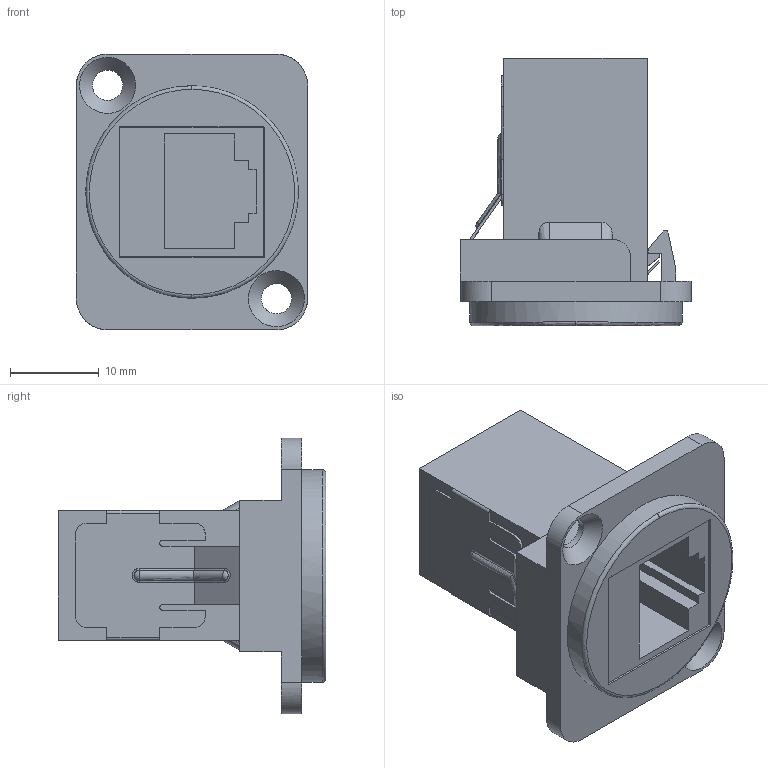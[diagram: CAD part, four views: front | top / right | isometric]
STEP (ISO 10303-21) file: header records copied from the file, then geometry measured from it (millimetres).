
FILE_DESCRIPTION(('FreeCAD Model'),'2;1');
FILE_NAME('Open CASCADE Shape Model','2026-05-18T11:31:28',(''),(''), 'Open CASCADE STEP processor 7.8','FreeCAD','Unknown');
FILE_SCHEMA(('AUTOMOTIVE_DESIGN { 1 0 10303 214 1 1 1 1 }'));
Length unit declared in the file: millimetre
Products named in the file (3): Unnamed; 3013BUSXLRBK; 3013AJSLQF6WH
Assembly tree (2 placements, depth 2):
  Unnamed
    3013BUSXLRBK
    3013AJSLQF6WH
Bounding box: 26 x 30.1 x 31 mm (x, y, z)
Volume: 6827.7 mm3; surface area: 6136.5 mm2
Topology: 2 solids, 2 shells, 177 faces, 493 edges, 322 vertices
Faces by surface type: bspline 176, plane 1
Entity records: 9426 total; most frequent: CARTESIAN_POINT 6365, ORIENTED_EDGE 978, EDGE_CURVE 489, B_SPLINE_CURVE_WITH_KNOTS 488, VERTEX_POINT 322, FACE_BOUND 189, EDGE_LOOP 189, ADVANCED_FACE 177
